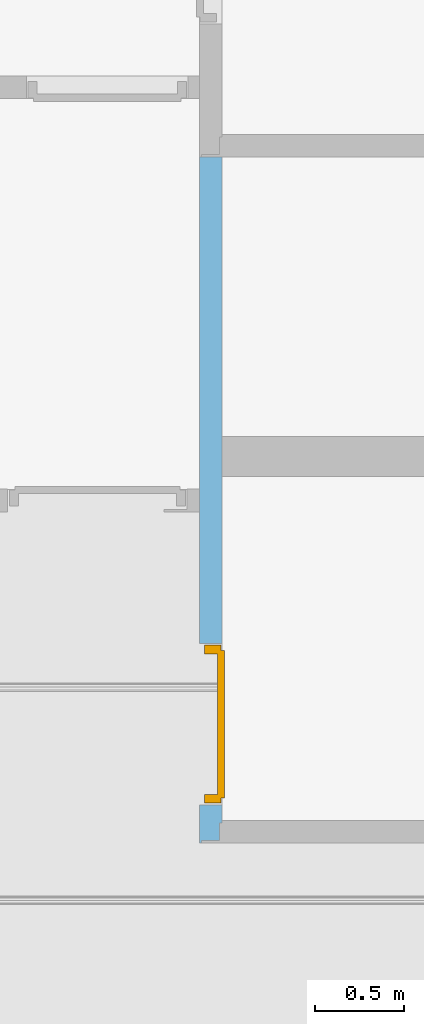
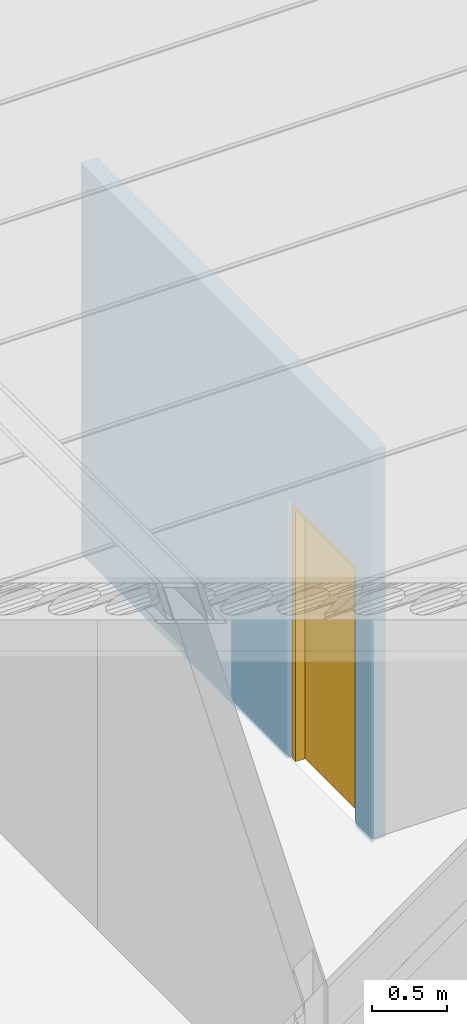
# One storey, part 23 of 45: 1 door, 1 opening, plus 1 element that does not belong to this part.
"""IFC2X3 building model written with IfcOpenShell, lengths in millimetres."""

from ifc_helpers import new_model, entity, si_unit, converted_unit, frame, frame_2d, origin, origin_with_axes, place, context, subcontext, project, spatial, polyline, rectangle, outline, extrude, faceted_brep, material, layer, layer_set, layer_usage, type_object, element, fill, save


model = new_model("IFC2X3")

# Units and contexts
model_context = context("Model", 3, precision=1e-05, world=origin())
plan_context = context("Plan", 3, precision=1e-05, world=origin())
body_context = subcontext(model_context, "Body", "Model", "MODEL_VIEW")
ifc_project = project(units=[si_unit("LENGTHUNIT", "METRE", prefix="MILLI"), converted_unit("PLANEANGLEUNIT", "DEGREE", entity("IfcPlaneAngleMeasure", 0.0174532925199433), si_unit("PLANEANGLEUNIT", "RADIAN"), dimensions=[0, 0, 0, 0, 0, 0, 0]), si_unit("AREAUNIT", "SQUARE_METRE"), si_unit("VOLUMEUNIT", "CUBIC_METRE")], contexts=[model_context, plan_context])

# Building, storey
building_placement = place(None, origin())
building = spatial("IfcBuilding", under=ifc_project, at=building_placement, Name="HEKF Administrasjonbygg", CompositionType="ELEMENT")
storey_placement = place(building_placement, frame((0.0, 0.0, 6500.0), z_axis=(0.0, 0.0, 1.0), x_axis=(1.0, 0.0, 0.0)))
storey = spatial("IfcBuildingStorey", under=building, at=storey_placement, Name="Plan 1", CompositionType="ELEMENT", Elevation=6500.0)

# Wall, opening, door
ifc_material_1 = material(Name="gips")
ifc_layer_1 = layer(ifc_material_1, 13.0)
ifc_material_2 = material(Name="riegel stål 100")
ifc_layer_2 = layer(ifc_material_2, 100.0)
ifc_material_3 = material(Name="gips")
ifc_layer_3 = layer(ifc_material_3, 13.0)
ifc_layer_set = layer_set([ifc_layer_1, ifc_layer_2, ifc_layer_3])
ifc_layer_usage = layer_usage(ifc_layer_set, "AXIS2", "POSITIVE", 0.0)
wall_placement = place(storey_placement, frame((18337.0, -5417.0, 0.0), z_axis=(0.0, 0.0, 1.0), x_axis=(0.0, -0.9999999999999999, 0.0)))
wall = element("IfcWallStandardCase", 1, at=wall_placement, inside=storey, material=ifc_layer_usage, context=body_context, shape_type="SweptSolid", body=[
    extrude(outline(polyline([(0.0, 0.0), (3859.000000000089, 0.0), (3859.000000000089, 13.0), (3846.000000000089, 13.0), (3846.000000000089, 113.0), (3746.000000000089, 113.0), (3746.000000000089, 126.0), (0.0, 126.0), (0.0, 0.0)])), origin_with_axes(), (0.0, 0.0, 1.0), 3170.0),
])
opening_placement = place(wall_placement, frame((2736.000000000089, 0.0, 0.0), z_axis=(0.0, 1.0, 0.0), x_axis=(0.0, 0.0, 1.0)))
opening = element("IfcOpeningElement", 2, at=opening_placement, cuts=wall, Name="Door opening", ObjectType="Opening", context=body_context, shape_type="SweptSolid", body=[
    extrude(rectangle(XDim=2110.0, YDim=910.0, at=frame_2d((1055.0, 455.0), x_axis=(1.0, 0.0))), origin_with_axes(), (0.0, 0.0, 1.0), 126.0),
])
ifc_material_4 = material()
door_style = type_object("IfcDoorStyle", Name="D015", ConstructionType="NOTDEFINED", OperationType="USERDEFINED", ParameterTakesPrecedence=False, Sizeable=False)
door_placement = place(opening_placement, frame((0.0, 0.0, 0.0), z_axis=(1.0, 0.0, 0.0), x_axis=(0.0, 1.0, 0.0)))
door = element("IfcDoor", 3, at=door_placement, inside=storey, type_object=door_style, material=ifc_material_4, Name="D015", OverallHeight=2110.0, OverallWidth=910.0, context=body_context, shape_type="Brep", body=[
    faceted_brep([(900.0, 122.0000000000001, 2090.0), (850.0, 122.0000000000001, 2090.0), (850.0, 122.0, -2.816687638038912e-15), (900.0, 122.0, -2.816687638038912e-15), (900.0, 30.0, 2.816687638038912e-15), (850.0, 30.00000000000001, 2.816687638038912e-15), (850.0, 30.00000000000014, 2090.0), (900.0, 30.00000000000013, 2090.0), (900.0, 122.0, -2.816687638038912e-15), (900.0, 30.0, 2.816687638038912e-15), (900.0, 30.00000000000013, 2090.0), (900.0, 122.0000000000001, 2090.0), (850.0, 122.0, -2.816687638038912e-15), (850.0, 30.00000000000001, 2.816687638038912e-15), (900.0, 30.0, 2.816687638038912e-15), (900.0, 122.0, -2.816687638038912e-15), (850.0, 122.0000000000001, 2090.0), (850.0, 30.00000000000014, 2090.0), (850.0, 30.00000000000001, 2.816687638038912e-15), (850.0, 122.0, -2.816687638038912e-15), (900.0, 122.0000000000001, 2090.0), (900.0, 30.00000000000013, 2090.0), (850.0, 30.00000000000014, 2090.0), (850.0, 122.0000000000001, 2090.0)], [[[0, 1, 2, 3]], [[4, 5, 6, 7]], [[8, 9, 10, 11]], [[12, 13, 14, 15]], [[16, 17, 18, 19]], [[20, 21, 22, 23]]], orient=[[False], [False], [False], [False], [False], [False]]),
    faceted_brep([(60.0, 122.0000000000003, 2090.0), (10.0, 122.0000000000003, 2090.0), (10.0, 122.0000000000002, -2.816687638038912e-15), (60.0, 122.0000000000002, -2.816687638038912e-15), (60.0, 30.00000000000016, 2.816687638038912e-15), (10.0, 30.00000000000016, 2.816687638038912e-15), (10.0, 30.00000000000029, 2090.0), (60.0, 30.00000000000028, 2090.0), (60.0, 122.0000000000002, -2.816687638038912e-15), (60.0, 30.00000000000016, 2.816687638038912e-15), (60.0, 30.00000000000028, 2090.0), (60.0, 122.0000000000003, 2090.0), (10.0, 122.0000000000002, -2.816687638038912e-15), (10.0, 30.00000000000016, 2.816687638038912e-15), (60.0, 30.00000000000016, 2.816687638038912e-15), (60.0, 122.0000000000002, -2.816687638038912e-15), (10.0, 122.0000000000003, 2090.0), (10.0, 30.00000000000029, 2090.0), (10.0, 30.00000000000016, 2.816687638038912e-15), (10.0, 122.0000000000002, -2.816687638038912e-15), (60.0, 122.0000000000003, 2090.0), (60.0, 30.00000000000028, 2090.0), (10.0, 30.00000000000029, 2090.0), (10.0, 122.0000000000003, 2090.0)], [[[0, 1, 2, 3]], [[4, 5, 6, 7]], [[8, 9, 10, 11]], [[12, 13, 14, 15]], [[16, 17, 18, 19]], [[20, 21, 22, 23]]], orient=[[False], [False], [False], [False], [False], [False]]),
    faceted_brep([(850.0, 122.0000000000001, 2090.0), (60.00000000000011, 122.0000000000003, 2090.0), (60.00000000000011, 122.0000000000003, 2040.0), (850.0, 122.0000000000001, 2040.0), (850.0, 30.00000000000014, 2040.0), (60.00000000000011, 30.00000000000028, 2040.0), (60.00000000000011, 30.00000000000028, 2090.0), (850.0, 30.00000000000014, 2090.0), (850.0, 122.0000000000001, 2040.0), (850.0, 30.00000000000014, 2040.0), (850.0, 30.00000000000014, 2090.0), (850.0, 122.0000000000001, 2090.0), (60.00000000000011, 122.0000000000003, 2040.0), (60.00000000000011, 30.00000000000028, 2040.0), (850.0, 30.00000000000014, 2040.0), (850.0, 122.0000000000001, 2040.0), (60.00000000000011, 122.0000000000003, 2090.0), (60.00000000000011, 30.00000000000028, 2090.0), (60.00000000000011, 30.00000000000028, 2040.0), (60.00000000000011, 122.0000000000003, 2040.0), (850.0, 122.0000000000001, 2090.0), (850.0, 30.00000000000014, 2090.0), (60.00000000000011, 30.00000000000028, 2090.0), (60.00000000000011, 122.0000000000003, 2090.0)], [[[0, 1, 2, 3]], [[4, 5, 6, 7]], [[8, 9, 10, 11]], [[12, 13, 14, 15]], [[16, 17, 18, 19]], [[20, 21, 22, 23]]], orient=[[False], [False], [False], [False], [False], [False]]),
    faceted_brep([(870.0, 142.0000000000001, 2060.0), (40.0, 142.0000000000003, 2060.0), (40.0, 142.0000000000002, -4.041334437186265e-15), (870.0, 142.0, -4.041334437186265e-15), (870.0, 102.0, -1.592040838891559e-15), (40.0, 102.0000000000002, -1.592040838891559e-15), (40.0, 102.0000000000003, 2060.0), (870.0, 102.0000000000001, 2060.0), (870.0, 142.0, -4.041334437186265e-15), (870.0, 102.0, -1.592040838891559e-15), (870.0, 102.0000000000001, 2060.0), (870.0, 142.0000000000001, 2060.0), (40.0, 142.0000000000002, -4.041334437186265e-15), (40.0, 102.0000000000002, -1.592040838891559e-15), (870.0, 102.0, -1.592040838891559e-15), (870.0, 142.0, -4.041334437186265e-15), (40.0, 142.0000000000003, 2060.0), (40.0, 102.0000000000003, 2060.0), (40.0, 102.0000000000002, -1.592040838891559e-15), (40.0, 142.0000000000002, -4.041334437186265e-15), (870.0, 142.0000000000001, 2060.0), (870.0, 102.0000000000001, 2060.0), (40.0, 102.0000000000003, 2060.0), (40.0, 142.0000000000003, 2060.0)], [[[0, 1, 2, 3]], [[4, 5, 6, 7]], [[8, 9, 10, 11]], [[12, 13, 14, 15]], [[16, 17, 18, 19]], [[20, 21, 22, 23]]], orient=[[False], [False], [False], [False], [False], [False]]),
])
fill(opening, door)

save(model, "model.ifc")
